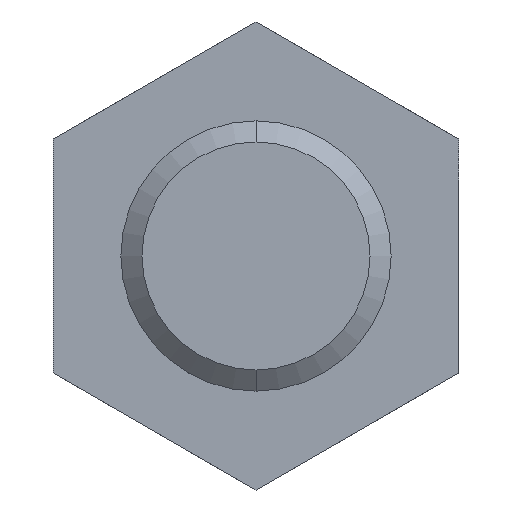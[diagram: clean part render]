
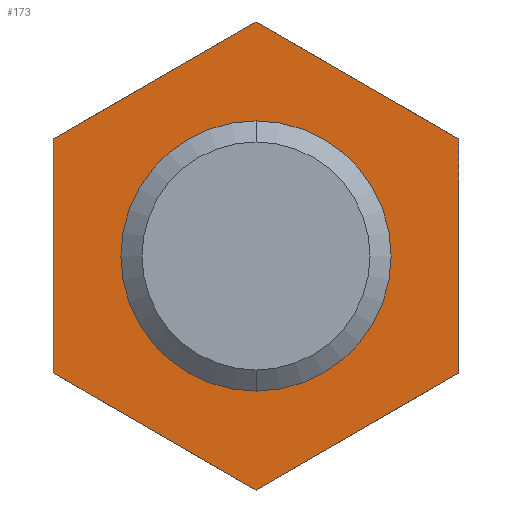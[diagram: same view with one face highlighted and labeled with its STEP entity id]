
A CAD part, front view. The second image highlights one B-rep face of the part: STEP entity #173.
In plain terms, the highlighted planar face has unit normal (0, -1, 0).
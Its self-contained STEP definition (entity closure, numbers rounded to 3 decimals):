
#25 = EDGE_CURVE ( 'NONE', #11218, #11145, #5308, .T. ) ;
#151 = ORIENTED_EDGE ( 'NONE', *, *, #11315, .T. ) ;
#152 = ORIENTED_EDGE ( 'NONE', *, *, #153, .T. ) ;
#153 = EDGE_CURVE ( 'NONE', #11316, #11310, #5562, .T. ) ;
#154 = EDGE_LOOP ( 'NONE', ( #155, #156, #157, #158, #159, #160 ) ) ;
#155 = ORIENTED_EDGE ( 'NONE', *, *, #11154, .T. ) ;
#156 = ORIENTED_EDGE ( 'NONE', *, *, #1924, .T. ) ;
#157 = ORIENTED_EDGE ( 'NONE', *, *, #11191, .T. ) ;
#158 = ORIENTED_EDGE ( 'NONE', *, *, #11237, .T. ) ;
#159 = ORIENTED_EDGE ( 'NONE', *, *, #11217, .T. ) ;
#160 = ORIENTED_EDGE ( 'NONE', *, *, #25, .T. ) ;
#173 = ADVANCED_FACE ( 'NONE', ( #5605, #5602 ), #5601, .T. ) ;
#174 = EDGE_LOOP ( 'NONE', ( #151, #152 ) ) ;
#1924 = EDGE_CURVE ( 'NONE', #11157, #1929, #8781, .T. ) ;
#1929 = VERTEX_POINT ( 'NONE', #8773 ) ;
#2858 = CARTESIAN_POINT ( 'NONE',  ( 15., 40., 8.66 ) ) ;
#2888 = CARTESIAN_POINT ( 'NONE',  ( 0., 40., 17.321 ) ) ;
#2893 = DIRECTION ( 'NONE',  ( -0.866, 0., 0.5 ) ) ;
#2894 = VECTOR ( 'NONE', #2893, 1000. ) ;
#2895 = CARTESIAN_POINT ( 'NONE',  ( 15., 40., 8.66 ) ) ;
#2896 = LINE ( 'NONE', #2895, #2894 ) ;
#2979 = DIRECTION ( 'NONE',  ( 0., 0., -1. ) ) ;
#2980 = VECTOR ( 'NONE', #2979, 1000. ) ;
#2981 = CARTESIAN_POINT ( 'NONE',  ( -15., 40., 8.66 ) ) ;
#2983 = LINE ( 'NONE', #2981, #2980 ) ;
#3056 = CARTESIAN_POINT ( 'NONE',  ( -15., 40., -8.66 ) ) ;
#3238 = CARTESIAN_POINT ( 'NONE',  ( 15., 40., -8.66 ) ) ;
#3240 = DIRECTION ( 'NONE',  ( 0.866, 0., 0.5 ) ) ;
#3242 = VECTOR ( 'NONE', #3240, 1000. ) ;
#3243 = CARTESIAN_POINT ( 'NONE',  ( 0., 40., -17.321 ) ) ;
#3244 = LINE ( 'NONE', #3243, #3242 ) ;
#3271 = DIRECTION ( 'NONE',  ( 0.866, 0., -0.5 ) ) ;
#3272 = VECTOR ( 'NONE', #3271, 1000. ) ;
#3273 = CARTESIAN_POINT ( 'NONE',  ( -15., 40., -8.66 ) ) ;
#3275 = LINE ( 'NONE', #3273, #3272 ) ;
#3293 = CARTESIAN_POINT ( 'NONE',  ( 0., 40., -17.321 ) ) ;
#3450 = CIRCLE ( 'NONE', #3585, 10. ) ;
#3468 = CARTESIAN_POINT ( 'NONE',  ( -10., 40., 0. ) ) ;
#3578 = CARTESIAN_POINT ( 'NONE',  ( 10., 40., 0. ) ) ;
#3580 = DIRECTION ( 'NONE',  ( -1., 0., 0. ) ) ;
#3582 = DIRECTION ( 'NONE',  ( 0., 1., 0. ) ) ;
#3584 = CARTESIAN_POINT ( 'NONE',  ( 0., 40., 0. ) ) ;
#3585 = AXIS2_PLACEMENT_3D ( 'NONE', #3584, #3582, #3580 ) ;
#5303 = DIRECTION ( 'NONE',  ( 0., 0., 1. ) ) ;
#5304 = VECTOR ( 'NONE', #5303, 1000. ) ;
#5305 = CARTESIAN_POINT ( 'NONE',  ( 15., 40., -8.66 ) ) ;
#5308 = LINE ( 'NONE', #5305, #5304 ) ;
#5558 = DIRECTION ( 'NONE',  ( -1., 0., 0. ) ) ;
#5559 = DIRECTION ( 'NONE',  ( 0., 1., 0. ) ) ;
#5560 = CARTESIAN_POINT ( 'NONE',  ( 0., 40., 0. ) ) ;
#5561 = AXIS2_PLACEMENT_3D ( 'NONE', #5560, #5559, #5558 ) ;
#5562 = CIRCLE ( 'NONE', #5561, 10. ) ;
#5596 = DIRECTION ( 'NONE',  ( 1., 0., 0. ) ) ;
#5597 = DIRECTION ( 'NONE',  ( 0., -1., 0. ) ) ;
#5598 = CARTESIAN_POINT ( 'NONE',  ( -10., 40., 0. ) ) ;
#5600 = AXIS2_PLACEMENT_3D ( 'NONE', #5598, #5597, #5596 ) ;
#5601 = PLANE ( 'NONE',  #5600 ) ;
#5602 = FACE_OUTER_BOUND ( 'NONE', #154, .T. ) ;
#5605 = FACE_BOUND ( 'NONE', #174, .T. ) ;
#8773 = CARTESIAN_POINT ( 'NONE',  ( -15., 40., 8.66 ) ) ;
#8778 = DIRECTION ( 'NONE',  ( -0.866, 0., -0.5 ) ) ;
#8779 = VECTOR ( 'NONE', #8778, 1000. ) ;
#8780 = CARTESIAN_POINT ( 'NONE',  ( 0., 40., 17.321 ) ) ;
#8781 = LINE ( 'NONE', #8780, #8779 ) ;
#11145 = VERTEX_POINT ( 'NONE', #2858 ) ;
#11154 = EDGE_CURVE ( 'NONE', #11145, #11157, #2896, .T. ) ;
#11157 = VERTEX_POINT ( 'NONE', #2888 ) ;
#11191 = EDGE_CURVE ( 'NONE', #1929, #11205, #2983, .T. ) ;
#11205 = VERTEX_POINT ( 'NONE', #3056 ) ;
#11217 = EDGE_CURVE ( 'NONE', #11236, #11218, #3244, .T. ) ;
#11218 = VERTEX_POINT ( 'NONE', #3238 ) ;
#11236 = VERTEX_POINT ( 'NONE', #3293 ) ;
#11237 = EDGE_CURVE ( 'NONE', #11205, #11236, #3275, .T. ) ;
#11310 = VERTEX_POINT ( 'NONE', #3468 ) ;
#11315 = EDGE_CURVE ( 'NONE', #11310, #11316, #3450, .T. ) ;
#11316 = VERTEX_POINT ( 'NONE', #3578 ) ;
